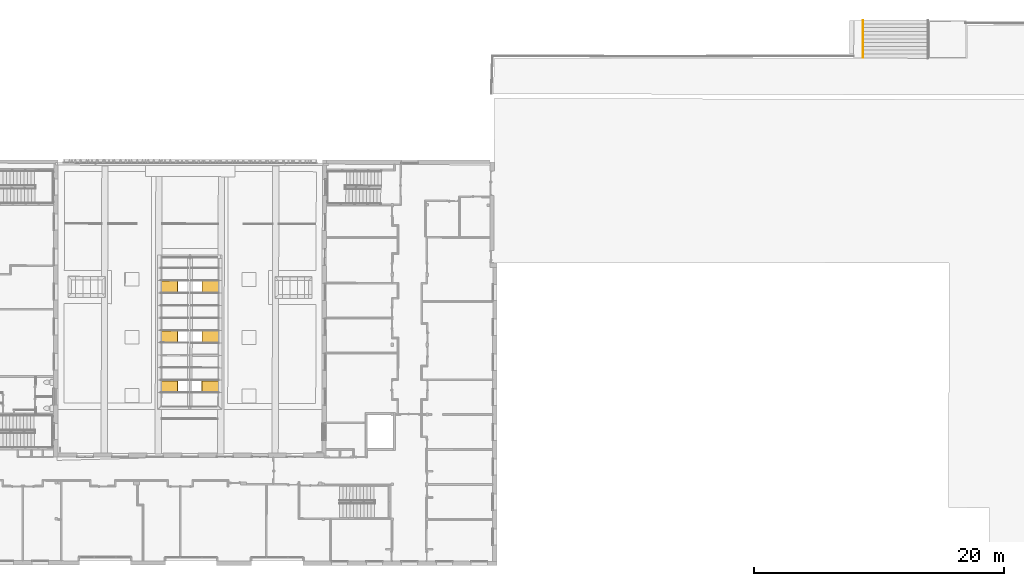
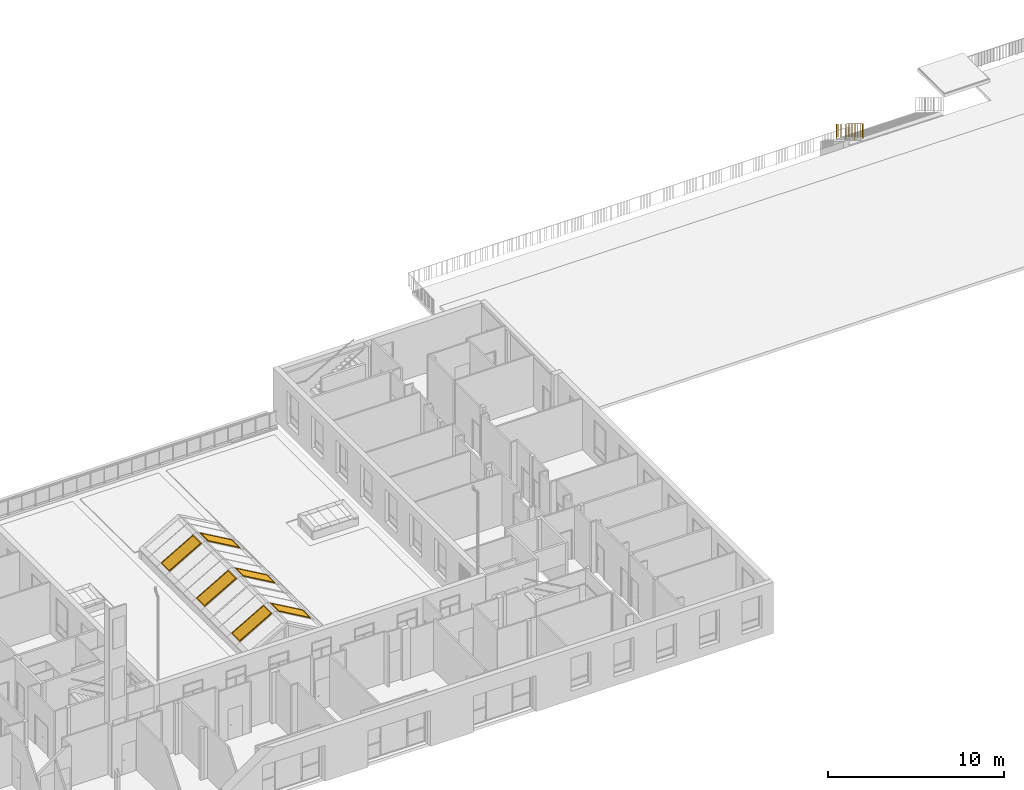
# One storey, part 99 of 101: 6 windows, 1 railing, 2 elements without a shape of their own.
"""IFC2X3 building model written with IfcOpenShell, lengths in metres."""

from ifc_helpers import new_model, entity, si_unit, converted_unit, derived_unit, direction, frame, frame_2d, origin, origin_2d_with_axis, place, context, subcontext, project, spatial, polyline, rectangle, outline, extrude, source, transform, mapped, material, material_list, type_object, type_shapes, element, aggregate, save


model = new_model("IFC2X3")

# Units and contexts
model_context = context("Model", 3, precision=1e-05, world=origin(), true_north=direction((6.123233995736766e-17, 1.0)))
body_context = subcontext(model_context, "Body", "Model", "MODEL_VIEW")
ifc_project = project(units=[si_unit("LENGTHUNIT", "METRE"), si_unit("AREAUNIT", "SQUARE_METRE"), converted_unit("PLANEANGLEUNIT", "DEGREE", entity("IfcPlaneAngleMeasure", 0.017453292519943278), si_unit("PLANEANGLEUNIT", "RADIAN"), dimensions=[0, 0, 0, 0, 0, 0, 0]), derived_unit("THERMALTRANSMITTANCEUNIT", [(si_unit("MASSUNIT", "GRAM", prefix="KILO"), 1), (si_unit("THERMODYNAMICTEMPERATUREUNIT", "KELVIN"), -1), (si_unit("TIMEUNIT", "SECOND"), -3)])], contexts=[model_context])

# Site, building, storey
site_placement = place(None, frame((1253.6752467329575, 2072.143113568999, 91.49999999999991), z_axis=(0.0, 0.0, 1.0), x_axis=(0.7237211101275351, 0.6900925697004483, 0.0)))
site = spatial("IfcSite", under=ifc_project, at=site_placement, Name="Surface", CompositionType="ELEMENT")
building_placement = place(site_placement, origin())
building = spatial("IfcBuilding", under=site, at=building_placement, CompositionType="ELEMENT")
storey_placement = place(building_placement, origin())
storey = spatial("IfcBuildingStorey", under=building, at=storey_placement, Name="0- Rdc", CompositionType="ELEMENT", Elevation=-5.764692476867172e-13)

# Roof, windows
curtain_wall_type = type_object("IfcCurtainWallType", Name="Vitres inclinées:Toit en verre 1 m x 2 m", PredefinedType="NOTDEFINED")
roof_placement = place(storey_placement, origin())
roof = element("IfcRoof", 1, at=roof_placement, inside=storey, type_object=curtain_wall_type, Name="Vitres inclinées:Toit en verre 1 m x 2 m", ObjectType="Vitres inclinées:Toit en verre 1 m x 2 m", ShapeType="NOTDEFINED")
ifc_material_1 = material(Name="polycarbonate blanc")
ifc_material_2 = material(Name="Aluminium")
ifc_material_list_1 = material_list([ifc_material_1, ifc_material_2])
window_style_1 = type_object("IfcWindowStyle", Name="OMD_Ouvrant:Oscillo Battant", ConstructionType="NOTDEFINED", OperationType="NOTDEFINED", ParameterTakesPrecedence=False, Sizeable=False, material=ifc_material_list_1)
shared_shape_1 = source(origin(), body_context, "Body", "SweptSolid", [
    extrude(rectangle(XDim=0.010000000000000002, YDim=0.8696495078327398, at=origin_2d_with_axis()), frame((0.0, -0.025000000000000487, 0.04999999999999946), z_axis=(0.0, 0.0, 1.0), x_axis=(0.0, 1.0, 0.0)), (0.0, 0.0, 1.0), 2.352048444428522),
    extrude(outline(polyline([(-1.2260242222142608, -0.4848247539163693), (1.22602422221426, -0.4848247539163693), (1.2260242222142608, 0.4848247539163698), (-1.2260242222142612, 0.4848247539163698), (-1.2260242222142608, -0.4848247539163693)]), holes=[polyline([(1.1760242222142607, -0.43482475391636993), (-1.1760242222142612, -0.43482475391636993), (-1.1760242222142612, 0.43482475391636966), (1.1760242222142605, 0.4348247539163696), (1.1760242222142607, -0.43482475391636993)])]), frame((0.0, -0.050000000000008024, 1.2260242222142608), z_axis=(0.0, 1.0, 0.0), x_axis=(0.0, 0.0, 1.0)), (0.0, 0.0, 1.0), 0.05000000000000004),
])
type_shapes(window_style_1, [shared_shape_1])
window_1_placement = place(roof_placement, frame((175.26156964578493, 5.033395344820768, 0.39589942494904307), z_axis=(0.6260239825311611, -0.5984095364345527, 0.5000000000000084), x_axis=(-0.6909838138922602, -0.722870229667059, 0.0)))
window_1 = element("IfcWindow", 2, at=window_1_placement, type_object=window_style_1, material=ifc_material_list_1, Name="OMD_Ouvrant:Oscillo Battant", ObjectType="OMD_Ouvrant:Oscillo Battant", OverallHeight=0.20079268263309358, OverallWidth=0.9696495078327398, context=body_context, shape_type="MappedRepresentation", body=[
    mapped(shared_shape_1, transform((0.0, 0.0, 0.0), scale=1.0)),
])
window_style_2 = type_object("IfcWindowStyle", Name="OMD_Ouvrant:Oscillo Battant", ConstructionType="NOTDEFINED", OperationType="NOTDEFINED", ParameterTakesPrecedence=False, Sizeable=False, material=ifc_material_list_1)
shared_shape_2 = source(origin(), body_context, "Body", "SweptSolid", [
    extrude(rectangle(XDim=0.010000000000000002, YDim=0.8624000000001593, at=frame_2d((-2.168404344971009e-18, 0.0), x_axis=(1.0, 0.0))), frame((0.0, -0.025000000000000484, 0.04999999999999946), z_axis=(0.0, 0.0, 1.0), x_axis=(0.0, 1.0, 0.0)), (0.0, 0.0, 1.0), 2.3520484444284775),
    extrude(outline(polyline([(-1.2260242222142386, -0.4812000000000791), (1.226024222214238, -0.4812000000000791), (1.2260242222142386, 0.48120000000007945), (-1.226024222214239, 0.48120000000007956), (-1.2260242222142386, -0.4812000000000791)]), holes=[polyline([(1.1760242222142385, -0.4312000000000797), (-1.176024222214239, -0.4312000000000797), (-1.176024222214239, 0.4312000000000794), (1.1760242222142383, 0.43120000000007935), (1.1760242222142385, -0.4312000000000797)])]), frame((0.0, -0.050000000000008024, 1.2260242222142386), z_axis=(0.0, 1.0, 0.0), x_axis=(0.0, 0.0, 1.0)), (0.0, 0.0, 1.0), 0.05000000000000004),
])
type_shapes(window_style_2, [shared_shape_2])
window_2_placement = place(roof_placement, frame((172.4951297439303, 2.1392941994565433, 0.39589942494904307), z_axis=(0.6260239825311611, -0.5984095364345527, 0.5000000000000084), x_axis=(-0.6909838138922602, -0.722870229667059, 0.0)))
window_2 = element("IfcWindow", 3, at=window_2_placement, type_object=window_style_2, material=ifc_material_list_1, Name="OMD_Ouvrant:Oscillo Battant", ObjectType="OMD_Ouvrant:Oscillo Battant", OverallHeight=0.20079268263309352, OverallWidth=0.9624000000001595, context=body_context, shape_type="MappedRepresentation", body=[
    mapped(shared_shape_2, transform((0.0, 0.0, 0.0), scale=1.0)),
])
window_3_placement = place(roof_placement, frame((169.73117382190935, -0.7522083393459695, 0.39589942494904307), z_axis=(0.6260239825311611, -0.5984095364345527, 0.5000000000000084), x_axis=(-0.6909838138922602, -0.722870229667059, 0.0)))
window_3 = element("IfcWindow", 4, at=window_3_placement, type_object=window_style_2, material=ifc_material_list_1, Name="OMD_Ouvrant:Oscillo Battant", ObjectType="OMD_Ouvrant:Oscillo Battant", OverallHeight=0.20079268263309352, OverallWidth=0.9624000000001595, context=body_context, shape_type="MappedRepresentation", body=[
    mapped(shared_shape_2, transform((0.0, 0.0, 0.0), scale=1.0)),
])
window_style_3 = type_object("IfcWindowStyle", Name="OMD_Ouvrant:Battant", ConstructionType="NOTDEFINED", OperationType="NOTDEFINED", ParameterTakesPrecedence=False, Sizeable=False, material=ifc_material_list_1)
shared_shape_3 = source(origin(), body_context, "Body", "SweptSolid", [
    extrude(rectangle(XDim=0.010000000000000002, YDim=0.8624000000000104, at=frame_2d((-2.168404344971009e-18, 0.0), x_axis=(1.0, 0.0))), frame((0.0, -0.025000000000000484, 0.04999999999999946), z_axis=(0.0, 0.0, 1.0), x_axis=(0.0, 1.0, 0.0)), (0.0, 0.0, 1.0), 2.352048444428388),
    extrude(outline(polyline([(-1.2260242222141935, -0.4812000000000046), (1.226024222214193, -0.4812000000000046), (1.2260242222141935, 0.4812000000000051), (-1.2260242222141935, 0.48120000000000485), (-1.2260242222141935, -0.4812000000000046)]), holes=[polyline([(1.1760242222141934, -0.43120000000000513), (-1.1760242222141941, -0.43120000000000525), (-1.176024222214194, 0.43120000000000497), (1.1760242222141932, 0.4312000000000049), (1.1760242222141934, -0.43120000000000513)])]), frame((0.0, -0.050000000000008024, 1.2260242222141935), z_axis=(0.0, 1.0, 0.0), x_axis=(0.0, 0.0, 1.0)), (0.0, 0.0, 1.0), 0.05000000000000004),
])
type_shapes(window_style_3, [shared_shape_3])
window_4_placement = place(roof_placement, frame((173.07670663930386, -3.950166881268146, 0.39589942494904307), z_axis=(-0.6260239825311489, 0.5984095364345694, 0.5000000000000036), x_axis=(0.6909838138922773, 0.7228702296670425, 0.0)))
window_4 = element("IfcWindow", 5, at=window_4_placement, type_object=window_style_3, material=ifc_material_list_1, Name="OMD_Ouvrant:Battant", ObjectType="OMD_Ouvrant:Battant", OverallHeight=0.20079268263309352, OverallWidth=0.9624000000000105, context=body_context, shape_type="MappedRepresentation", body=[
    mapped(shared_shape_3, transform((0.0, 0.0, 0.0), scale=1.0)),
])
window_5_placement = place(roof_placement, frame((175.8406625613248, -1.058664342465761, 0.3958994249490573), z_axis=(-0.6260239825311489, 0.5984095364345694, 0.5000000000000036), x_axis=(0.6909838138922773, 0.7228702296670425, 0.0)))
window_5 = element("IfcWindow", 6, at=window_5_placement, type_object=window_style_3, material=ifc_material_list_1, Name="OMD_Ouvrant:Battant", ObjectType="OMD_Ouvrant:Battant", OverallHeight=0.20079268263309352, OverallWidth=0.9624000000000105, context=body_context, shape_type="MappedRepresentation", body=[
    mapped(shared_shape_3, transform((0.0, 0.0, 0.0), scale=1.0)),
])
window_style_4 = type_object("IfcWindowStyle", Name="OMD_Ouvrant:Battant", ConstructionType="NOTDEFINED", OperationType="NOTDEFINED", ParameterTakesPrecedence=False, Sizeable=False, material=ifc_material_list_1)
shared_shape_4 = source(origin(), body_context, "Body", "SweptSolid", [
    extrude(rectangle(XDim=0.010000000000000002, YDim=0.8696495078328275, at=origin_2d_with_axis()), frame((0.0, -0.025000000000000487, 0.04999999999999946), z_axis=(0.0, 0.0, 1.0), x_axis=(0.0, 1.0, 0.0)), (0.0, 0.0, 1.0), 2.3520484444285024),
    extrude(outline(polyline([(-1.226024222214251, -0.48482475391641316), (1.2260242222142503, -0.48482475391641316), (1.226024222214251, 0.4848247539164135), (-1.2260242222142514, 0.48482475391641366), (-1.226024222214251, -0.48482475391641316)]), holes=[polyline([(1.176024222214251, -0.4348247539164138), (-1.1760242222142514, -0.4348247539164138), (-1.1760242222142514, 0.4348247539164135), (1.1760242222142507, 0.43482475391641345), (1.176024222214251, -0.4348247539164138)])]), frame((0.0, -0.050000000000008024, 1.226024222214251), z_axis=(0.0, 1.0, 0.0), x_axis=(0.0, 0.0, 1.0)), (0.0, 0.0, 1.0), 0.05000000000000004),
])
type_shapes(window_style_4, [shared_shape_4])
window_6_placement = place(roof_placement, frame((178.60710246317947, 1.8354368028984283, 0.39589942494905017), z_axis=(-0.6260239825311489, 0.5984095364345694, 0.5000000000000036), x_axis=(0.6909838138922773, 0.7228702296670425, 0.0)))
window_6 = element("IfcWindow", 7, at=window_6_placement, type_object=window_style_4, material=ifc_material_list_1, Name="OMD_Ouvrant:Battant", ObjectType="OMD_Ouvrant:Battant", OverallHeight=0.20079268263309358, OverallWidth=0.9696495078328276, context=body_context, shape_type="MappedRepresentation", body=[
    mapped(shared_shape_4, transform((0.0, 0.0, 0.0), scale=1.0)),
])
aggregate(roof, [window_1, window_2, window_3, window_4, window_5, window_6])

# Stair, railing
type_product = type_object("IfcTypeProduct", Name="Escalier coulé sur place:Monobloc")
stair_placement = place(storey_placement, origin())
stair = element("IfcStair", 8, at=stair_placement, inside=storey, type_object=type_product, Name="Escalier coulé sur place:Escalier", ObjectType="Escalier coulé sur place:Monobloc", ShapeType="STRAIGHT_RUN_STAIR")
ifc_material_3 = material(Name="<Unnamed>")
ifc_material_4 = material(Name="Peinture - Grise")
ifc_material_5 = material(Name="OMD_RAL1032")
ifc_material_list_2 = material_list([ifc_material_3, ifc_material_4, ifc_material_5])
railing_type = type_object("IfcRailingType", Name="Garde-corps:OMD_Garde Corps Régulier 1m", PredefinedType="NOTDEFINED")
railing_placement = place(stair_placement, frame((228.60887555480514, -20.547852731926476, -2.5404411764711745)))
railing = element("IfcRailing", 9, at=railing_placement, type_object=railing_type, material=ifc_material_list_2, Name="Garde-corps:OMD_Garde Corps Régulier 1m", ObjectType="Garde-corps:OMD_Garde Corps Régulier 1m", PredefinedType="NOTDEFINED", context=body_context, shape_type="SweptSolid", body=[
    extrude(rectangle(XDim=0.015000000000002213, YDim=0.005000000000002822, at=origin_2d_with_axis()), frame((0.0767613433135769, 0.07882226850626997, 1.8943218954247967), z_axis=(0.0, 0.0, 1.0), x_axis=(0.6922408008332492, 0.7216665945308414, 0.0)), (0.0, 0.0, 1.0), 0.8899999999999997),
    extrude(rectangle(XDim=0.015000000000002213, YDim=0.005000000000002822, at=origin_2d_with_axis()), frame((0.13493590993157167, 0.13946972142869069, 1.843055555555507), z_axis=(0.0, 0.0, 1.0), x_axis=(0.6922408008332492, 0.7216665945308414, 0.0)), (0.0, 0.0, 1.0), 0.8899999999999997),
    extrude(rectangle(XDim=0.015000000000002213, YDim=0.005000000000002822, at=origin_2d_with_axis()), frame((0.1931104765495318, 0.2001171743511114, 1.791789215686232), z_axis=(0.0, 0.0, 1.0), x_axis=(0.6922408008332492, 0.7216665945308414, 0.0)), (0.0, 0.0, 1.0), 0.8899999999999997),
    extrude(rectangle(XDim=0.015000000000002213, YDim=0.005000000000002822, at=origin_2d_with_axis()), frame((0.25128504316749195, 0.26076462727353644, 1.7405228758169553), z_axis=(0.0, 0.0, 1.0), x_axis=(0.6922408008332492, 0.7216665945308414, 0.0)), (0.0, 0.0, 1.0), 0.8899999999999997),
    extrude(rectangle(XDim=0.015000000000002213, YDim=0.005000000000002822, at=origin_2d_with_axis()), frame((0.30945960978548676, 0.32141208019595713, 1.6892565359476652), z_axis=(0.0, 0.0, 1.0), x_axis=(0.6922408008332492, 0.7216665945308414, 0.0)), (0.0, 0.0, 1.0), 0.8899999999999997),
    extrude(rectangle(XDim=0.015000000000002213, YDim=0.005000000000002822, at=origin_2d_with_axis()), frame((0.36763417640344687, 0.38205953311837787, 1.6379901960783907), z_axis=(0.0, 0.0, 1.0), x_axis=(0.6922408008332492, 0.7216665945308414, 0.0)), (0.0, 0.0, 1.0), 0.8899999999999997),
    extrude(rectangle(XDim=0.015000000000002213, YDim=0.005000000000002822, at=origin_2d_with_axis()), frame((0.42580874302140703, 0.4427069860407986, 1.5867238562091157), z_axis=(0.0, 0.0, 1.0), x_axis=(0.6922408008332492, 0.7216665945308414, 0.0)), (0.0, 0.0, 1.0), 0.8899999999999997),
    extrude(rectangle(XDim=0.015000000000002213, YDim=0.005000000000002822, at=origin_2d_with_axis()), frame((0.48398330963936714, 0.5033544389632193, 1.5354575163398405), z_axis=(0.0, 0.0, 1.0), x_axis=(0.6922408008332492, 0.7216665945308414, 0.0)), (0.0, 0.0, 1.0), 0.8899999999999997),
    extrude(rectangle(XDim=0.015000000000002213, YDim=0.005000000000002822, at=origin_2d_with_axis()), frame((0.542157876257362, 0.56400189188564, 1.4841911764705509), z_axis=(0.0, 0.0, 1.0), x_axis=(0.6922408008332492, 0.7216665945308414, 0.0)), (0.0, 0.0, 1.0), 0.8899999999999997),
    extrude(rectangle(XDim=0.015000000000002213, YDim=0.005000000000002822, at=origin_2d_with_axis()), frame((0.6003324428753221, 0.6246493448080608, 1.432924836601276), z_axis=(0.0, 0.0, 1.0), x_axis=(0.6922408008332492, 0.7216665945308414, 0.0)), (0.0, 0.0, 1.0), 0.8899999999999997),
    extrude(rectangle(XDim=0.015000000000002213, YDim=0.005000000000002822, at=origin_2d_with_axis()), frame((0.6585070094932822, 0.6852967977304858, 1.3816584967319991), z_axis=(0.0, 0.0, 1.0), x_axis=(0.6922408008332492, 0.7216665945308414, 0.0)), (0.0, 0.0, 1.0), 0.8899999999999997),
    extrude(rectangle(XDim=0.01200000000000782, YDim=0.03999999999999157, at=frame_2d((-1.3556430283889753e-14, 1.1005085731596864e-14), x_axis=(1.0, 0.0))), frame((0.7166815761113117, 0.7459442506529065, 1.1073529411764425), z_axis=(0.0, 0.0, 1.0), x_axis=(0.6922408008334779, 0.7216665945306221, 0.0)), (0.0, 0.0, 1.0), 1.1130392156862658),
    extrude(rectangle(XDim=0.015000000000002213, YDim=0.005000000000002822, at=origin_2d_with_axis()), frame((0.7748561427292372, 0.8065917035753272, 1.279125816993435), z_axis=(0.0, 0.0, 1.0), x_axis=(0.6922408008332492, 0.7216665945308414, 0.0)), (0.0, 0.0, 1.0), 0.8899999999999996),
    extrude(rectangle(XDim=0.015000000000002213, YDim=0.005000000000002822, at=origin_2d_with_axis()), frame((0.8330307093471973, 0.867239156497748, 1.22785947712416), z_axis=(0.0, 0.0, 1.0), x_axis=(0.6922408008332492, 0.7216665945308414, 0.0)), (0.0, 0.0, 1.0), 0.8899999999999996),
    extrude(rectangle(XDim=0.015000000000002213, YDim=0.005000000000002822, at=origin_2d_with_axis()), frame((0.8912052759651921, 0.9278866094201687, 1.1765931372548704), z_axis=(0.0, 0.0, 1.0), x_axis=(0.6922408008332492, 0.7216665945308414, 0.0)), (0.0, 0.0, 1.0), 0.8899999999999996),
    extrude(rectangle(XDim=0.015000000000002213, YDim=0.005000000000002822, at=origin_2d_with_axis()), frame((0.9493798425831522, 0.9885340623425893, 1.1253267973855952), z_axis=(0.0, 0.0, 1.0), x_axis=(0.6922408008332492, 0.7216665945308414, 0.0)), (0.0, 0.0, 1.0), 0.8899999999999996),
    extrude(rectangle(XDim=0.015000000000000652, YDim=0.005000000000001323, at=frame_2d((-7.814929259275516e-16, -7.496173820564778e-16), x_axis=(1.0, 0.0))), frame((1.0075544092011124, 1.0491815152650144, 1.074060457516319), z_axis=(0.0, 0.0, 1.0), x_axis=(0.6922408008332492, 0.7216665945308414, 0.0)), (0.0, 0.0, 1.0), 0.8899999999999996),
    extrude(rectangle(XDim=0.015000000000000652, YDim=0.005000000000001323, at=frame_2d((-7.814929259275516e-16, -7.496173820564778e-16), x_axis=(1.0, 0.0))), frame((1.065728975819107, 1.1098289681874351, 1.0227941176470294), z_axis=(0.0, 0.0, 1.0), x_axis=(0.6922408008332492, 0.7216665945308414, 0.0)), (0.0, 0.0, 1.0), 0.8899999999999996),
    extrude(rectangle(XDim=0.015000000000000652, YDim=0.005000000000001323, at=frame_2d((-7.814929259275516e-16, -7.496173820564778e-16), x_axis=(1.0, 0.0))), frame((1.1239035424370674, 1.1704764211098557, 0.9715277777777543), z_axis=(0.0, 0.0, 1.0), x_axis=(0.6922408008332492, 0.7216665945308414, 0.0)), (0.0, 0.0, 1.0), 0.8899999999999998),
    extrude(rectangle(XDim=0.015000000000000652, YDim=0.005000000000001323, at=frame_2d((7.814929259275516e-16, 7.496173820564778e-16), x_axis=(1.0, 0.0))), frame((1.1820781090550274, 1.2311238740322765, 0.9202614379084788), z_axis=(0.0, 0.0, 1.0), x_axis=(0.6922408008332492, 0.7216665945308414, 0.0)), (0.0, 0.0, 1.0), 0.8899999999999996),
    extrude(rectangle(XDim=0.015000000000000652, YDim=0.005000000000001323, at=frame_2d((7.814929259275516e-16, 7.496173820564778e-16), x_axis=(1.0, 0.0))), frame((1.2402526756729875, 1.2917713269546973, 0.8689950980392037), z_axis=(0.0, 0.0, 1.0), x_axis=(0.6922408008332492, 0.7216665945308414, 0.0)), (0.0, 0.0, 1.0), 0.8899999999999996),
    extrude(rectangle(XDim=0.015000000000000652, YDim=0.005000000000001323, at=frame_2d((7.814929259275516e-16, 7.496173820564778e-16), x_axis=(1.0, 0.0))), frame((1.2984272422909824, 1.352418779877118, 0.8177287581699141), z_axis=(0.0, 0.0, 1.0), x_axis=(0.6922408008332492, 0.7216665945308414, 0.0)), (0.0, 0.0, 1.0), 0.8899999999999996),
    extrude(rectangle(XDim=0.015000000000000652, YDim=0.005000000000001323, at=frame_2d((7.814929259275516e-16, 7.496173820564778e-16), x_axis=(1.0, 0.0))), frame((1.3566018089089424, 1.4130662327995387, 0.766462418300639), z_axis=(0.0, 0.0, 1.0), x_axis=(0.6922408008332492, 0.7216665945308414, 0.0)), (0.0, 0.0, 1.0), 0.8899999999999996),
    extrude(rectangle(XDim=0.012000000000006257, YDim=0.03999999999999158, at=frame_2d((-1.2774937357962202e-14, 1.1752751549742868e-14), x_axis=(1.0, 0.0))), frame((1.4147763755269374, 1.4737136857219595, 0.5536764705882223), z_axis=(0.0, 0.0, 1.0), x_axis=(0.6922408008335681, 0.7216665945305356, 0.0)), (0.0, 0.0, 1.0), 1.05151960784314),
    extrude(rectangle(XDim=0.015000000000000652, YDim=0.005000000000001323, at=frame_2d((7.814929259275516e-16, 7.496173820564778e-16), x_axis=(1.0, 0.0))), frame((1.4729509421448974, 1.5343611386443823, 0.6639297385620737), z_axis=(0.0, 0.0, 1.0), x_axis=(0.6922408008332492, 0.7216665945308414, 0.0)), (0.0, 0.0, 1.0), 0.8899999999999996),
    extrude(rectangle(XDim=0.015000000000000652, YDim=0.005000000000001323, at=frame_2d((7.814929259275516e-16, 7.496173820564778e-16), x_axis=(1.0, 0.0))), frame((1.5311255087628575, 1.595008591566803, 0.6126633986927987), z_axis=(0.0, 0.0, 1.0), x_axis=(0.6922408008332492, 0.7216665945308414, 0.0)), (0.0, 0.0, 1.0), 0.8899999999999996),
    extrude(rectangle(XDim=0.015000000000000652, YDim=0.005000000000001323, at=frame_2d((7.814929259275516e-16, 7.496173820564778e-16), x_axis=(1.0, 0.0))), frame((1.5893000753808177, 1.6556560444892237, 0.5613970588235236), z_axis=(0.0, 0.0, 1.0), x_axis=(0.6922408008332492, 0.7216665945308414, 0.0)), (0.0, 0.0, 1.0), 0.8899999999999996),
    extrude(rectangle(XDim=0.015000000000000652, YDim=0.005000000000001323, at=frame_2d((7.814929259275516e-16, 7.496173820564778e-16), x_axis=(1.0, 0.0))), frame((1.6474746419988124, 1.7163034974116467, 0.5101307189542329), z_axis=(0.0, 0.0, 1.0), x_axis=(0.6922408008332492, 0.7216665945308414, 0.0)), (0.0, 0.0, 1.0), 0.8899999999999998),
    extrude(rectangle(XDim=0.015000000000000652, YDim=0.005000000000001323, at=frame_2d((7.814929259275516e-16, 7.496173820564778e-16), x_axis=(1.0, 0.0))), frame((1.7056492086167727, 1.7769509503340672, 0.45886437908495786), z_axis=(0.0, 0.0, 1.0), x_axis=(0.6922408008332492, 0.7216665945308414, 0.0)), (0.0, 0.0, 1.0), 0.8899999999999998),
    extrude(rectangle(XDim=0.015000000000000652, YDim=0.005000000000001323, at=frame_2d((7.814929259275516e-16, 7.496173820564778e-16), x_axis=(1.0, 0.0))), frame((1.7638237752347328, 1.837598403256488, 0.4075980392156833), z_axis=(0.0, 0.0, 1.0), x_axis=(0.6922408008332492, 0.7216665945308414, 0.0)), (0.0, 0.0, 1.0), 0.8899999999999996),
    extrude(rectangle(XDim=0.015000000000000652, YDim=0.005000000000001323, at=frame_2d((-7.814929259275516e-16, -7.496173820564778e-16), x_axis=(1.0, 0.0))), frame((1.8219983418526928, 1.898245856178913, 0.3563316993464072), z_axis=(0.0, 0.0, 1.0), x_axis=(0.6922408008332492, 0.7216665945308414, 0.0)), (0.0, 0.0, 1.0), 0.8899999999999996),
    extrude(rectangle(XDim=0.015000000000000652, YDim=0.005000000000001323, at=frame_2d((-7.814929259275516e-16, -7.496173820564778e-16), x_axis=(1.0, 0.0))), frame((1.8801729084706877, 1.9588933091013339, 0.30506535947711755), z_axis=(0.0, 0.0, 1.0), x_axis=(0.6922408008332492, 0.7216665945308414, 0.0)), (0.0, 0.0, 1.0), 0.8899999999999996),
    extrude(rectangle(XDim=0.015000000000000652, YDim=0.005000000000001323, at=frame_2d((-7.814929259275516e-16, -7.496173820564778e-16), x_axis=(1.0, 0.0))), frame((1.9383474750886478, 2.0195407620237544, 0.25379901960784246), z_axis=(0.0, 0.0, 1.0), x_axis=(0.6922408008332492, 0.7216665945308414, 0.0)), (0.0, 0.0, 1.0), 0.8899999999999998),
    extrude(rectangle(XDim=0.015000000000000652, YDim=0.005000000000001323, at=frame_2d((-7.814929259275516e-16, -7.496173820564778e-16), x_axis=(1.0, 0.0))), frame((1.996522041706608, 2.0801882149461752, 0.20253267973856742), z_axis=(0.0, 0.0, 1.0), x_axis=(0.6922408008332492, 0.7216665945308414, 0.0)), (0.0, 0.0, 1.0), 0.8899999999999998),
    extrude(rectangle(XDim=0.015000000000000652, YDim=0.005000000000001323, at=frame_2d((7.814929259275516e-16, 7.496173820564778e-16), x_axis=(1.0, 0.0))), frame((2.054696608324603, 2.140835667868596, 0.15126633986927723), z_axis=(0.0, 0.0, 1.0), x_axis=(0.6922408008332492, 0.7216665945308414, 0.0)), (0.0, 0.0, 1.0), 0.8899999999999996),
    extrude(rectangle(XDim=0.01200000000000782, YDim=0.03999999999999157, at=frame_2d((-1.3556430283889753e-14, 1.1005085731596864e-14), x_axis=(1.0, 0.0))), frame((0.018586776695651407, 0.01817481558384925, 1.8455882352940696), z_axis=(0.0, 0.0, 1.0), x_axis=(0.6922408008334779, 0.7216665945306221, 0.0)), (0.0, 0.0, 1.0), 0.9900000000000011),
    extrude(rectangle(XDim=0.012000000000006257, YDim=0.03999999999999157, at=frame_2d((-1.1211951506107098e-14, 1.3253287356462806e-14), x_axis=(1.0, 0.0))), frame((2.1128711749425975, 2.2014831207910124, 0.0), z_axis=(0.0, 0.0, 1.0), x_axis=(0.6922408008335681, 0.7216665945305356, 0.0)), (0.0, 0.0, 1.0), 0.9900000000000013),
    extrude(outline(polyline([(-1.7688878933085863, -0.005000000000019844), (1.7749882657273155, -0.005000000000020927), (1.7688878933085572, 0.004999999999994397), (-1.774988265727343, 0.00499999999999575), (-1.7688878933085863, -0.005000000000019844)])), frame((1.0476873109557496, 1.1271349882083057, 1.9169371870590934), z_axis=(0.7216665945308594, -0.6922408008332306, 0.0), x_axis=(-0.5909586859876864, -0.6160791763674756, 0.5207823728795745)), (0.0, 0.0, 1.0), 0.0499999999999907),
    extrude(outline(polyline([(-1.7688878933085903, -0.005000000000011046), (1.7749882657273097, -0.005000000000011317), (1.7688878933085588, 0.0049999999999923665), (-1.7749882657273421, 0.004999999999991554), (-1.7688878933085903, -0.005000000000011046)])), frame((1.0621206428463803, 1.11329017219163, 1.0169371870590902), z_axis=(0.7216665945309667, -0.6922408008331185, 0.0), x_axis=(-0.5909586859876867, -0.6160791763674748, 0.5207823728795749)), (0.0, 0.0, 1.0), 0.01000000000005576),
])
aggregate(stair, [railing])

save(model, "model.ifc")
